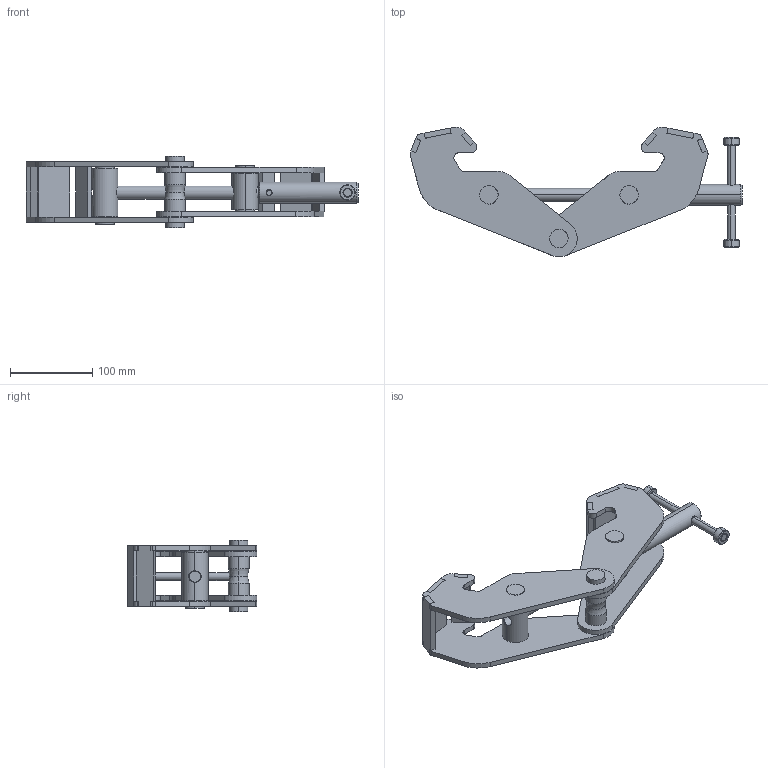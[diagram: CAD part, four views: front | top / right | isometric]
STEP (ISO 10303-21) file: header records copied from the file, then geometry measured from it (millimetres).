
FILE_DESCRIPTION (( 'STEP AP214' ), '1' );
FILE_NAME ('OZ2BC.STEP', '2023-03-27T18:28:29', ( '' ), ( '' ), 'SwSTEP 2.0', 'SolidWorks 2021', '' );
FILE_SCHEMA (( 'AUTOMOTIVE_DESIGN' ));
Length unit declared in the file: inch
Products named in the file (15): OZ2BC-PP02; OZ2BC; OZ2BC-SP01; OZ1BC-HR01; OZ1BC-TR01; OZ2BC-WP02; OZ2BC-WELDMENT_Assembly; OZ1BC-RE01; OZ1BC-HB01; OZ2BC-PP01; OZ2BC-LP01; OZ2BC-WP01; OZ2BC-WP04; OZ2BC-WP03; OZ1BC-HANDLE
Assembly tree (20 placements, depth 3):
  OZ2BC
    OZ2BC-WELDMENT_Assembly
      OZ2BC-LP01
      OZ2BC-SP01  x4
      OZ2BC-WP03
      OZ2BC-WP01  x2
      OZ2BC-PP01
      OZ2BC-WP04
      OZ2BC-WP02  x2
      OZ2BC-PP02
    OZ1BC-TR01
    OZ1BC-HANDLE
      OZ1BC-HB01
      OZ1BC-HR01
      OZ1BC-RE01  x2
Bounding box: 403.14 x 157.65 x 86.61 mm (x, y, z)
Volume: 632604.7 mm3; surface area: 208407.8 mm2
Topology: 18 solids, 18 shells, 364 faces, 921 edges, 599 vertices
Faces by surface type: plane 200, cylinder 110, cone 22, bspline 20, torus 12
Entity records: 24482 total; most frequent: CARTESIAN_POINT 18928, ORIENTED_EDGE 994, DIRECTION 978, EDGE_CURVE 497, AXIS2_PLACEMENT_3D 347, VERTEX_POINT 319, LINE 284, VECTOR 284
